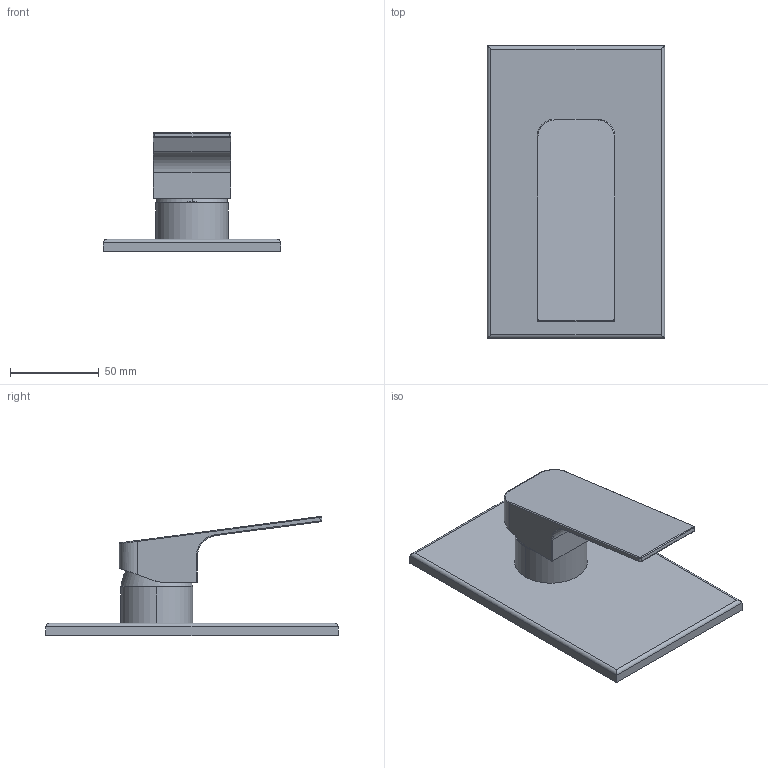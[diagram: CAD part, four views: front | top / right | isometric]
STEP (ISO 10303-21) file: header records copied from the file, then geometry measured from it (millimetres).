
FILE_DESCRIPTION((''),'2;1');
FILE_NAME('F3383_1_FILE_3D','2020-01-22T',('ivanv'),(''),'CREO PARAMETRIC BY PTC INC, 2016260','CREO PARAMETRIC BY PTC INC, 2016260','');
FILE_SCHEMA(('CONFIG_CONTROL_DESIGN'));
Length unit declared in the file: millimetre
Products named in the file (1): F3383_1_FILE_3D
Bounding box: 100 x 165 x 67.28 mm (x, y, z)
Volume: 56571.4 mm3; surface area: 69322 mm2
Topology: 4 solids, 4 shells, 928 faces, 2490 edges, 1586 vertices
Faces by surface type: plane 649, cylinder 117, bspline 80, cone 32, torus 30, sphere 20
Entity records: 35634 total; most frequent: CARTESIAN_POINT 13036, ORIENTED_EDGE 4964, DIRECTION 4222, EDGE_CURVE 2482, VECTOR 1916, LINE 1916, VERTEX_POINT 1586, AXIS2_PLACEMENT_3D 1153
